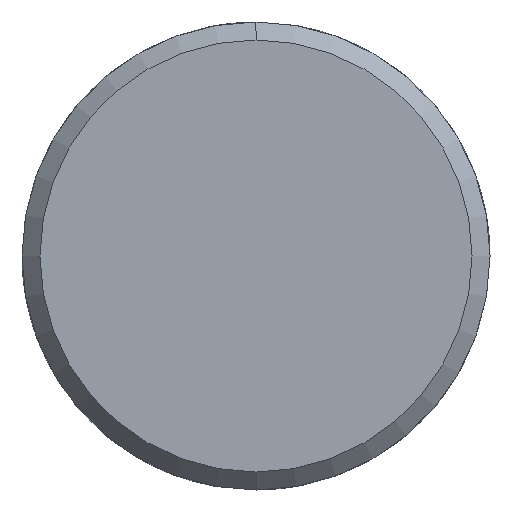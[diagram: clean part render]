
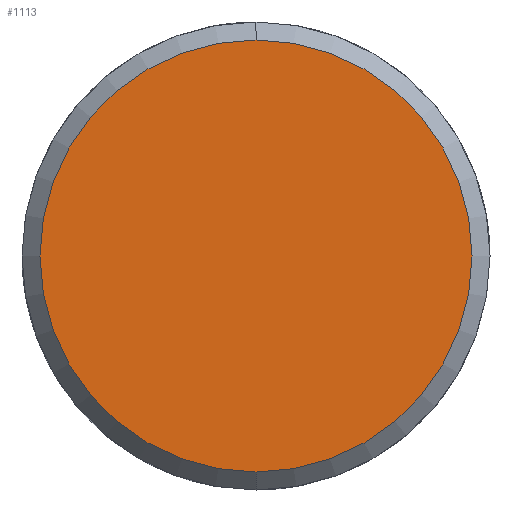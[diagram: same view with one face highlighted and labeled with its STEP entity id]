
A CAD part, left-side view. The second image highlights one B-rep face of the part: STEP entity #1113.
In plain terms, the highlighted planar face has unit normal (-1, 0, 0).
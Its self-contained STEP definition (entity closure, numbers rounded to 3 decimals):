
#1045=CARTESIAN_POINT('Vertex',(-5.,0.,-12.)) ;
#1048=CARTESIAN_POINT('Axis2P3D Location',(-5.,0.,0.)) ;
#1052=CARTESIAN_POINT('Vertex',(-5.,12.,0.)) ;
#1055=CARTESIAN_POINT('Axis2P3D Location',(-5.,0.,0.)) ;
#1059=CARTESIAN_POINT('Vertex',(-5.,0.,12.)) ;
#1081=CARTESIAN_POINT('Axis2P3D Location',(-5.,0.,0.)) ;
#1085=CARTESIAN_POINT('Vertex',(-5.,-12.,0.)) ;
#1088=CARTESIAN_POINT('Axis2P3D Location',(-5.,0.,0.)) ;
#1102=CARTESIAN_POINT('Axis2P3D Location',(-5.,0.,0.)) ;
#1049=DIRECTION('Axis2P3D Direction',(1.,0.,-0.)) ;
#1056=DIRECTION('Axis2P3D Direction',(1.,0.,-0.)) ;
#1082=DIRECTION('Axis2P3D Direction',(1.,0.,-0.)) ;
#1089=DIRECTION('Axis2P3D Direction',(1.,0.,-0.)) ;
#1103=DIRECTION('Axis2P3D Direction',(1.,0.,-0.)) ;
#1104=DIRECTION('Axis2P3D XDirection',(-0.,0.,-1.)) ;
#1050=AXIS2_PLACEMENT_3D('Circle Axis2P3D',#1048,#1049,$) ;
#1057=AXIS2_PLACEMENT_3D('Circle Axis2P3D',#1055,#1056,$) ;
#1083=AXIS2_PLACEMENT_3D('Circle Axis2P3D',#1081,#1082,$) ;
#1090=AXIS2_PLACEMENT_3D('Circle Axis2P3D',#1088,#1089,$) ;
#1105=AXIS2_PLACEMENT_3D('Plane Axis2P3D',#1102,#1103,#1104) ;
#1108=ORIENTED_EDGE('',*,*,#1054,.F.) ;
#1109=ORIENTED_EDGE('',*,*,#1092,.F.) ;
#1110=ORIENTED_EDGE('',*,*,#1087,.F.) ;
#1111=ORIENTED_EDGE('',*,*,#1061,.F.) ;
#1113=ADVANCED_FACE('351-16X46X90',(#1112),#1106,.F.) ;
#1051=CIRCLE('generated circle',#1050,12.) ;
#1058=CIRCLE('generated circle',#1057,12.) ;
#1084=CIRCLE('generated circle',#1083,12.) ;
#1091=CIRCLE('generated circle',#1090,12.) ;
#1054=EDGE_CURVE('',#1046,#1053,#1051,.T.) ;
#1061=EDGE_CURVE('',#1053,#1060,#1058,.T.) ;
#1087=EDGE_CURVE('',#1060,#1086,#1084,.T.) ;
#1092=EDGE_CURVE('',#1086,#1046,#1091,.T.) ;
#1107=EDGE_LOOP('',(#1108,#1109,#1110,#1111)) ;
#1112=FACE_OUTER_BOUND('',#1107,.T.) ;
#1106=PLANE('Plane',#1105) ;
#1046=VERTEX_POINT('',#1045) ;
#1053=VERTEX_POINT('',#1052) ;
#1060=VERTEX_POINT('',#1059) ;
#1086=VERTEX_POINT('',#1085) ;
